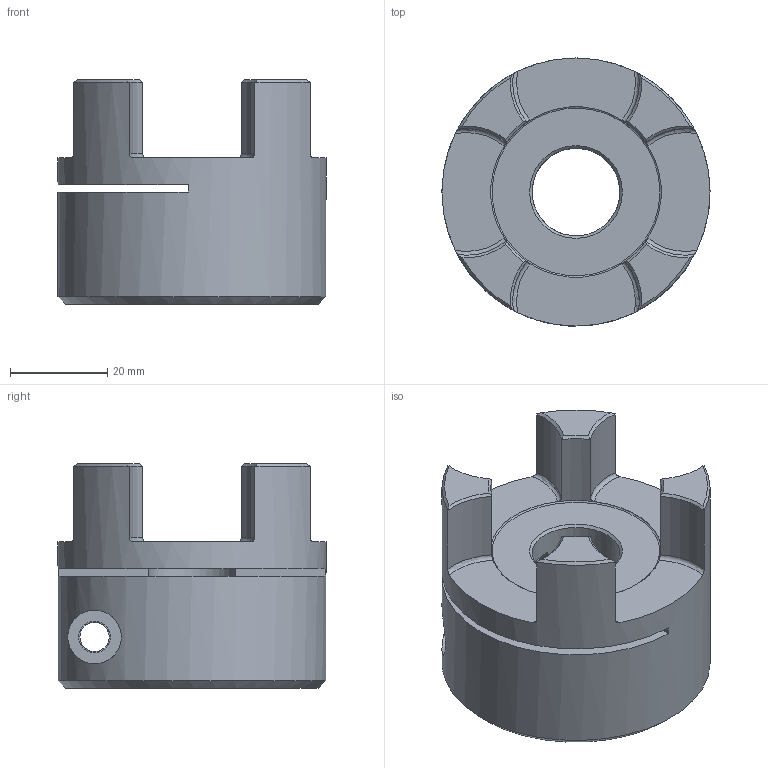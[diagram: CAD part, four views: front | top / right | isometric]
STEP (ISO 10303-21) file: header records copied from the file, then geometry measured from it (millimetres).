
FILE_DESCRIPTION(/* description */ (''),/* implementation_level */ '2;1');
FILE_NAME(/* name */ 'Z:\3D GIFLEX SG\GE-T 24-28 SG\02524218.stp',/* time_stamp */ '2018-06-25T10:09:24+02:00',/* author */ ('stagistacad'),/* organization */ (''),/* preprocessor_version */ 'ST-DEVELOPER v15.6',/* originating_system */ 'Autodesk Inventor 2015',/* authorisation */ '');
FILE_SCHEMA (('AUTOMOTIVE_DESIGN { 1 0 10303 214 3 1 1 }'));
Length unit declared in the file: millimetre
Products named in the file (1): 02524218
Bounding box: 55 x 55 x 46 mm (x, y, z)
Volume: 65246.2 mm3; surface area: 17307.8 mm2
Topology: 1 solids, 1 shells, 67 faces, 169 edges, 104 vertices
Faces by surface type: cone 20, plane 19, cylinder 18, torus 9, bspline 1
Full cylindrical faces by diameter (mm): 6 x1, 6.5 x1, 11 x1, 18 x1, 55 x1
Entity records: 2216 total; most frequent: CARTESIAN_POINT 674, DIRECTION 321, ORIENTED_EDGE 312, EDGE_CURVE 156, AXIS2_PLACEMENT_3D 143, VERTEX_POINT 99, EDGE_LOOP 79, CIRCLE 77
